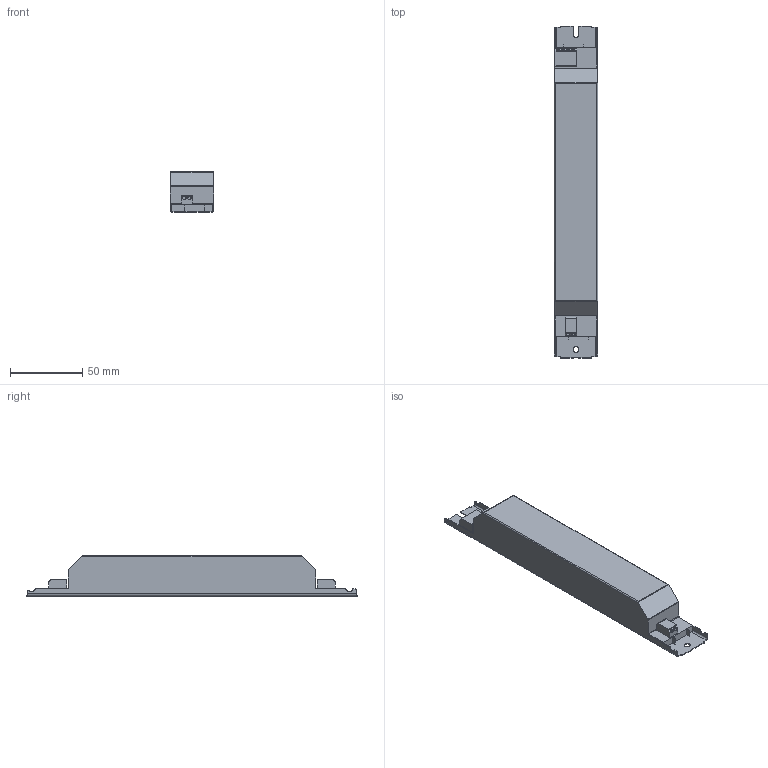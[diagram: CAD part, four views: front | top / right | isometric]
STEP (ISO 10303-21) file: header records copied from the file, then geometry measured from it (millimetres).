
FILE_DESCRIPTION((''),'2;1');
FILE_NAME('15007368Z','2012-12-04T',('juergen.hrach'),(''),'PRO/ENGINEER BY PARAMETRIC TECHNOLOGY CORPORATION, 2011310','PRO/ENGINEER BY PARAMETRIC TECHNOLOGY CORPORATION, 2011310','');
FILE_SCHEMA(('AUTOMOTIVE_DESIGN { 1 2 10303 214 0 1 1 1 }'));
Length unit declared in the file: millimetre
Products named in the file (1): 15007368Z
Bounding box: 30 x 230 x 28 mm (x, y, z)
Volume: 147610.2 mm3; surface area: 25485 mm2
Topology: 1 solids, 1 shells, 154 faces, 444 edges, 294 vertices
Faces by surface type: plane 83, cylinder 71
Entity records: 6650 total; most frequent: CARTESIAN_POINT 1061, ORIENTED_EDGE 888, DIRECTION 842, PRESENTATION_STYLE_ASSIGNMENT 447, STYLED_ITEM 445, CURVE_STYLE 444, EDGE_CURVE 444, VERTEX_POINT 294
